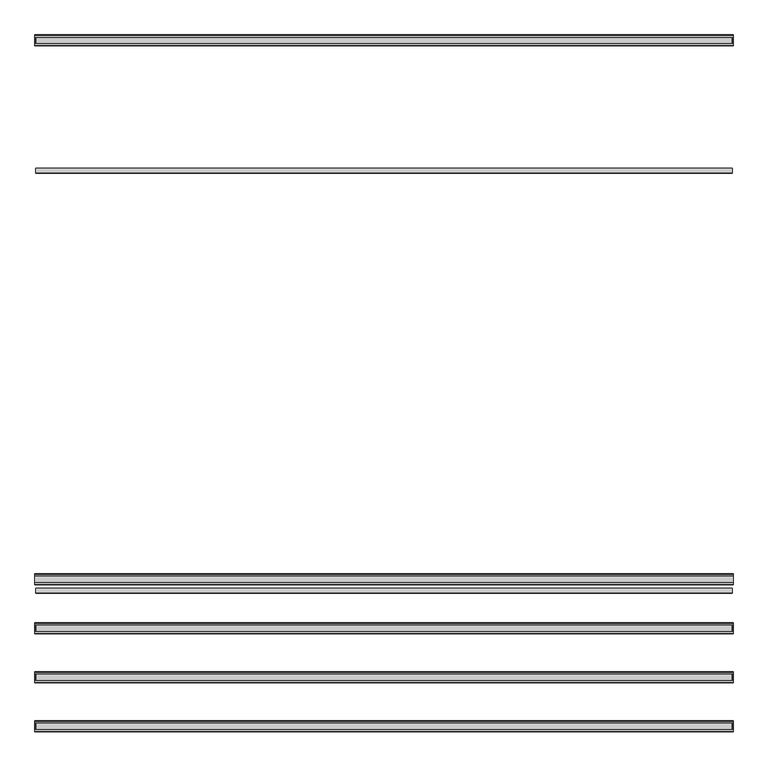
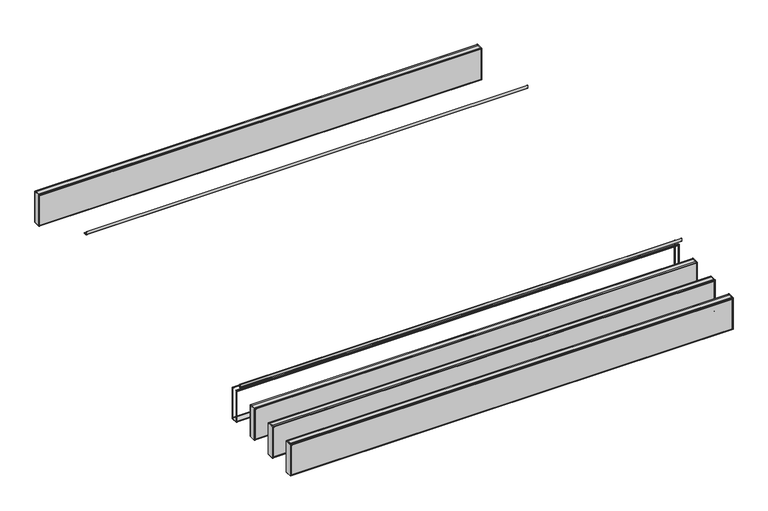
"""IFC4 building model written with IfcOpenShell, lengths in millimetres: proxy geometry, durlum_POLYLAM_KS : durlum_POLYLAM-KS/-S 63 RV-L6."""

from ifc_helpers import new_model, si_unit, point, frame, frame_2d, origin, place, context, project, spatial, polyline, circle_curve, trimmed, segment, composite_curve, outline, extrude, source, transform, mapped, element, save
from ifc_brep_helpers import plane_surface, cylinder_surface, advanced_brep


def generic_models_133a6ed9(model_context):
    return source(origin(), model_context, "Body", "SolidModel", [
        advanced_brep(
        [(1995.0, -1090.5, 1990.9), (1995.0, -1100.5, 1990.9), (1995.0, -1100.5, 1990.0604454), (1995.0, -1089.5, 1990.0604454), (1995.0, -1089.5, 1691.9), (1995.0, -1150.5, 1691.9), (1995.0, -1150.5, 1989.8155735), (1995.0, -1139.5, 1989.8155735), (1995.0, -1139.5, 1990.9), (1995.0, -1149.5, 1990.9), (1995.0, -1151.5, 1988.9), (1995.0, -1151.5, 1692.9), (1995.0, -1149.5, 1690.9), (1995.0, -1090.5, 1690.9), (1995.0, -1088.5, 1692.9), (1995.0, -1088.5, 1988.9), (-1995.0, -1090.5, 1990.9), (-1995.0, -1088.5, 1988.9), (-1995.0, -1088.5, 1692.9), (-1995.0, -1090.5, 1690.9), (-1995.0, -1149.5, 1690.9), (-1995.0, -1151.5, 1692.9), (-1995.0, -1151.5, 1988.9), (-1995.0, -1149.5, 1990.9), (-1995.0, -1139.5, 1990.9), (-1995.0, -1139.5, 1989.8155735), (-1995.0, -1150.5, 1989.8155735), (-1995.0, -1150.5, 1691.9), (-1995.0, -1089.5, 1691.9), (-1995.0, -1089.5, 1990.0604454), (-1995.0, -1100.5, 1990.0604454), (-1995.0, -1100.5, 1990.9), (-1986.5, -1089.5, 1982.4), (1986.5, -1089.5, 1982.4), (1986.5, -1089.5, 1699.4), (-1986.5, -1089.5, 1699.4), (1986.5, -1150.5, 1982.4), (-1986.5, -1150.5, 1982.4), (-1986.5, -1150.5, 1699.4), (1986.5, -1150.5, 1699.4), (-1986.5, -1151.5, 1982.4), (1986.5, -1151.5, 1982.4), (1986.5, -1151.5, 1699.4), (-1986.5, -1151.5, 1699.4), (1986.5, -1088.5, 1982.4), (-1986.5, -1088.5, 1982.4), (-1986.5, -1088.5, 1699.4), (1986.5, -1088.5, 1699.4)],
        [
            (0, 1),
            (1, 2),
            (2, 3),
            (3, 4),
            (4, 5),
            (5, 6),
            (6, 7),
            (7, 8),
            (8, 9),
            (9, 10, circle_curve(frame((1995.0, -1149.5, 1988.9), z_axis=(1.0, 0.0, 0.0), x_axis=(0.0, 1.0, 0.0)), 2.0)),
            (10, 11),
            (11, 12, circle_curve(frame((1995.0, -1149.5, 1692.9), z_axis=(1.0, 0.0, 0.0), x_axis=(0.0, 1.0, 0.0)), 2.0)),
            (12, 13),
            (13, 14, circle_curve(frame((1995.0, -1090.5, 1692.9), z_axis=(1.0, 0.0, 0.0), x_axis=(0.0, 1.0, 0.0)), 2.0)),
            (14, 15),
            (15, 0, circle_curve(frame((1995.0, -1090.5, 1988.9), z_axis=(1.0, 0.0, 0.0), x_axis=(0.0, 1.0, 0.0)), 2.0)),
            (16, 17, circle_curve(frame((-1995.0, -1090.5, 1988.9), z_axis=(-1.0, 0.0, 0.0), x_axis=(0.0, 1.0, 0.0)), 2.0)),
            (17, 18),
            (18, 19, circle_curve(frame((-1995.0, -1090.5, 1692.9), z_axis=(-1.0, 0.0, 0.0), x_axis=(0.0, 1.0, 0.0)), 2.0)),
            (19, 20),
            (20, 21, circle_curve(frame((-1995.0, -1149.5, 1692.9), z_axis=(-1.0, 0.0, 0.0), x_axis=(0.0, 1.0, 0.0)), 2.0)),
            (21, 22),
            (22, 23, circle_curve(frame((-1995.0, -1149.5, 1988.9), z_axis=(-1.0, 0.0, 0.0), x_axis=(0.0, 1.0, 0.0)), 2.0)),
            (23, 24),
            (24, 25),
            (25, 26),
            (26, 27),
            (27, 28),
            (28, 29),
            (29, 30),
            (30, 31),
            (31, 16),
            (0, 16),
            (31, 1),
            (30, 2),
            (29, 3),
            (28, 4),
            (32, 33),
            (33, 34),
            (34, 35),
            (35, 32),
            (27, 5),
            (26, 6),
            (36, 37),
            (37, 38),
            (38, 39),
            (39, 36),
            (25, 7),
            (24, 8),
            (23, 9),
            (10, 22),
            (21, 11),
            (40, 41),
            (41, 42),
            (42, 43),
            (43, 40),
            (12, 20),
            (19, 13),
            (14, 18),
            (17, 15),
            (44, 45),
            (45, 46),
            (46, 47),
            (47, 44),
            (44, 33),
            (32, 45),
            (36, 41),
            (40, 37),
            (35, 46),
            (43, 38),
            (34, 47),
            (42, 39),
        ],
        [
            plane_surface(frame((1995.0, -1100.5, 1990.9), z_axis=(1.0, 0.0, 0.0), x_axis=(0.0, -1.0, 0.0))),
            plane_surface(frame((-1995.0, -1100.5, 1990.9), z_axis=(-1.0, 0.0, 0.0), x_axis=(0.0, 1.0, 0.0))),
            plane_surface(frame((1995.0, -1090.5, 1990.9), z_axis=(0.0, 0.0, 1.0), x_axis=(-1.0, 0.0, 0.0))),
            plane_surface(frame((1995.0, -1100.5, 1990.9), z_axis=(0.0, -1.0, 0.0), x_axis=(-1.0, 0.0, 0.0))),
            plane_surface(frame((1995.0, -1100.5, 1990.0604454), z_axis=(0.0, 0.0, -1.0), x_axis=(-1.0, 0.0, 0.0))),
            plane_surface(frame((1995.0, -1089.5, 1990.0604454), z_axis=(0.0, -1.0, 0.0), x_axis=(-1.0, 0.0, 0.0))),
            plane_surface(frame((1995.0, -1089.5, 1691.9), z_axis=(0.0, 0.0, 1.0), x_axis=(-1.0, 0.0, 0.0))),
            plane_surface(frame((1995.0, -1150.5, 1691.9), z_axis=(0.0, 1.0, 0.0), x_axis=(-1.0, 0.0, 0.0))),
            plane_surface(frame((1995.0, -1150.5, 1989.8155735), z_axis=(0.0, 0.0, -1.0), x_axis=(-1.0, 0.0, 0.0))),
            plane_surface(frame((1995.0, -1139.5, 1989.8155735), z_axis=(0.0, 1.0, 0.0), x_axis=(-1.0, 0.0, 0.0))),
            plane_surface(frame((1995.0, -1139.5, 1990.9), z_axis=(0.0, 0.0, 1.0), x_axis=(-1.0, 0.0, 0.0))),
            plane_surface(frame((1995.0, -1151.5, 1988.9), z_axis=(0.0, -1.0, 0.0), x_axis=(-1.0, 0.0, 0.0))),
            plane_surface(frame((1995.0, -1149.5, 1690.9), z_axis=(0.0, 0.0, -1.0), x_axis=(-1.0, 0.0, 0.0))),
            plane_surface(frame((1995.0, -1088.5, 1692.9), z_axis=(0.0, 1.0, 0.0), x_axis=(-1.0, 0.0, 0.0))),
            cylinder_surface(frame((-1995.0, -1149.5, 1988.9), z_axis=(1.0, 0.0, 0.0), x_axis=(0.0, 1.0, 0.0)), 2.0),
            cylinder_surface(frame((-1995.0, -1149.5, 1692.9), z_axis=(1.0, 0.0, 0.0), x_axis=(0.0, 1.0, 0.0)), 2.0),
            cylinder_surface(frame((-1995.0, -1090.5, 1692.9), z_axis=(1.0, 0.0, 0.0), x_axis=(0.0, 1.0, 0.0)), 2.0),
            cylinder_surface(frame((-1995.0, -1090.5, 1988.9), z_axis=(1.0, 0.0, 0.0), x_axis=(0.0, 1.0, 0.0)), 2.0),
            plane_surface(frame((1986.5, -1151.5, 1982.4), z_axis=(0.0, 0.0, -1.0), x_axis=(0.0, 1.0, 0.0))),
            plane_surface(frame((-1986.5, -1151.5, 1982.4), z_axis=(1.0, 0.0, 0.0), x_axis=(0.0, 1.0, 0.0))),
            plane_surface(frame((-1986.5, -1151.5, 1699.4), z_axis=(0.0, 0.0, 1.0), x_axis=(0.0, 1.0, 0.0))),
            plane_surface(frame((1986.5, -1151.5, 1699.4), z_axis=(-1.0, 0.0, 0.0), x_axis=(0.0, 1.0, 0.0))),
        ],
        [
            (0, [[1, 2, 3, 4, 5, 6, 7, 8, 9, 10, 11, 12, 13, 14, 15, 16]]),
            (1, [[17, 18, 19, 20, 21, 22, 23, 24, 25, 26, 27, 28, 29, 30, 31, 32]]),
            (2, [[-1, 33, -32, 34]]),
            (3, [[-2, -34, -31, 35]]),
            (4, [[-3, -35, -30, 36]]),
            (5, [[-4, -36, -29, 37], [38, 39, 40, 41]]),
            (6, [[-5, -37, -28, 42]]),
            (7, [[-6, -42, -27, 43], [44, 45, 46, 47]]),
            (8, [[-7, -43, -26, 48]]),
            (9, [[-8, -48, -25, 49]]),
            (10, [[-9, -49, -24, 50]]),
            (11, [[-11, 51, -22, 52], [53, 54, 55, 56]]),
            (12, [[-13, 57, -20, 58]]),
            (13, [[-15, 59, -18, 60], [61, 62, 63, 64]]),
            (14, [[-10, -50, -23, -51]]),
            (15, [[-12, -52, -21, -57]]),
            (16, [[-14, -58, -19, -59]]),
            (17, [[-16, -60, -17, -33]]),
            (18, [[65, -38, 66, -61]]),
            (18, [[67, -53, 68, -44]]),
            (19, [[-66, -41, 69, -62]]),
            (19, [[-68, -56, 70, -45]]),
            (20, [[-69, -40, 71, -63]]),
            (20, [[-70, -55, 72, -46]]),
            (21, [[-65, -64, -71, -39]]),
            (21, [[-67, -47, -72, -54]]),
        ],
    ),
        extrude(outline(polyline([(1993.0, -1369.5), (1995.0, -1369.5), (1995.0, -1430.5), (1993.0, -1430.5), (1993.0, -1369.5)])), frame((0.0, 0.0, 1691.9), z_axis=(0.0, 0.0, 1.0), x_axis=(1.0, 0.0, 0.0)), (0.0, 0.0, 1.0), 298.1604454),
        extrude(outline(polyline([(-1995.0, -1369.5), (-1993.0, -1369.5), (-1993.0, -1430.5), (-1995.0, -1430.5), (-1995.0, -1369.5)])), frame((0.0, 0.0, 1691.9), z_axis=(0.0, 0.0, 1.0), x_axis=(1.0, 0.0, 0.0)), (0.0, 0.0, 1.0), 298.1604454),
        extrude(outline(polyline([(1986.5, -1369.5), (1986.5, -1430.5), (-1986.5, -1430.5), (-1986.5, -1369.5), (1986.5, -1369.5)])), frame((0.0, 0.0, 1691.9), z_axis=(0.0, 0.0, 1.0), x_axis=(1.0, 0.0, 0.0)), (0.0, 0.0, 1.0), 298.0),
        extrude(outline(polyline([(1986.5, -1369.5), (-1986.5, -1369.5), (-1986.5, -1368.5), (1986.5, -1368.5), (1986.5, -1369.5)])), frame((0.0, 0.0, 1699.4), z_axis=(0.0, 0.0, 1.0), x_axis=(1.0, 0.0, 0.0)), (0.0, 0.0, 1.0), 283.0),
        extrude(outline(polyline([(1986.5, -1431.5), (-1986.5, -1431.5), (-1986.5, -1430.5), (1986.5, -1430.5), (1986.5, -1431.5)])), frame((0.0, 0.0, 1699.4), z_axis=(0.0, 0.0, 1.0), x_axis=(1.0, 0.0, 0.0)), (0.0, 0.0, 1.0), 283.0),
        advanced_brep(
        [(1995.0, -1370.5, 1990.9), (1995.0, -1380.5, 1990.9), (1995.0, -1380.5, 1990.0604454), (1995.0, -1369.5, 1990.0604454), (1995.0, -1369.5, 1691.9), (1995.0, -1430.5, 1691.9), (1995.0, -1430.5, 1989.8155735), (1995.0, -1419.5, 1989.8155735), (1995.0, -1419.5, 1990.9), (1995.0, -1429.5, 1990.9), (1995.0, -1431.5, 1988.9), (1995.0, -1431.5, 1692.9), (1995.0, -1429.5, 1690.9), (1995.0, -1370.5, 1690.9), (1995.0, -1368.5, 1692.9), (1995.0, -1368.5, 1988.9), (-1995.0, -1370.5, 1990.9), (-1995.0, -1368.5, 1988.9), (-1995.0, -1368.5, 1692.9), (-1995.0, -1370.5, 1690.9), (-1995.0, -1429.5, 1690.9), (-1995.0, -1431.5, 1692.9), (-1995.0, -1431.5, 1988.9), (-1995.0, -1429.5, 1990.9), (-1995.0, -1419.5, 1990.9), (-1995.0, -1419.5, 1989.8155735), (-1995.0, -1430.5, 1989.8155735), (-1995.0, -1430.5, 1691.9), (-1995.0, -1369.5, 1691.9), (-1995.0, -1369.5, 1990.0604454), (-1995.0, -1380.5, 1990.0604454), (-1995.0, -1380.5, 1990.9), (-1986.5, -1369.5, 1982.4), (1986.5, -1369.5, 1982.4), (1986.5, -1369.5, 1699.4), (-1986.5, -1369.5, 1699.4), (1986.5, -1430.5, 1982.4), (-1986.5, -1430.5, 1982.4), (-1986.5, -1430.5, 1699.4), (1986.5, -1430.5, 1699.4), (-1986.5, -1431.5, 1982.4), (1986.5, -1431.5, 1982.4), (1986.5, -1431.5, 1699.4), (-1986.5, -1431.5, 1699.4), (1986.5, -1368.5, 1982.4), (-1986.5, -1368.5, 1982.4), (-1986.5, -1368.5, 1699.4), (1986.5, -1368.5, 1699.4)],
        [
            (0, 1),
            (1, 2),
            (2, 3),
            (3, 4),
            (4, 5),
            (5, 6),
            (6, 7),
            (7, 8),
            (8, 9),
            (9, 10, circle_curve(frame((1995.0, -1429.5, 1988.9), z_axis=(1.0, 0.0, 0.0), x_axis=(0.0, 1.0, 0.0)), 2.0)),
            (10, 11),
            (11, 12, circle_curve(frame((1995.0, -1429.5, 1692.9), z_axis=(1.0, 0.0, 0.0), x_axis=(0.0, 1.0, 0.0)), 2.0)),
            (12, 13),
            (13, 14, circle_curve(frame((1995.0, -1370.5, 1692.9), z_axis=(1.0, 0.0, 0.0), x_axis=(0.0, 1.0, 0.0)), 2.0)),
            (14, 15),
            (15, 0, circle_curve(frame((1995.0, -1370.5, 1988.9), z_axis=(1.0, 0.0, 0.0), x_axis=(0.0, 1.0, 0.0)), 2.0)),
            (16, 17, circle_curve(frame((-1995.0, -1370.5, 1988.9), z_axis=(-1.0, 0.0, 0.0), x_axis=(0.0, 1.0, 0.0)), 2.0)),
            (17, 18),
            (18, 19, circle_curve(frame((-1995.0, -1370.5, 1692.9), z_axis=(-1.0, 0.0, 0.0), x_axis=(0.0, 1.0, 0.0)), 2.0)),
            (19, 20),
            (20, 21, circle_curve(frame((-1995.0, -1429.5, 1692.9), z_axis=(-1.0, 0.0, 0.0), x_axis=(0.0, 1.0, 0.0)), 2.0)),
            (21, 22),
            (22, 23, circle_curve(frame((-1995.0, -1429.5, 1988.9), z_axis=(-1.0, 0.0, 0.0), x_axis=(0.0, 1.0, 0.0)), 2.0)),
            (23, 24),
            (24, 25),
            (25, 26),
            (26, 27),
            (27, 28),
            (28, 29),
            (29, 30),
            (30, 31),
            (31, 16),
            (0, 16),
            (31, 1),
            (30, 2),
            (29, 3),
            (28, 4),
            (32, 33),
            (33, 34),
            (34, 35),
            (35, 32),
            (27, 5),
            (26, 6),
            (36, 37),
            (37, 38),
            (38, 39),
            (39, 36),
            (25, 7),
            (24, 8),
            (23, 9),
            (10, 22),
            (21, 11),
            (40, 41),
            (41, 42),
            (42, 43),
            (43, 40),
            (12, 20),
            (19, 13),
            (14, 18),
            (17, 15),
            (44, 45),
            (45, 46),
            (46, 47),
            (47, 44),
            (44, 33),
            (32, 45),
            (36, 41),
            (40, 37),
            (35, 46),
            (43, 38),
            (34, 47),
            (42, 39),
        ],
        [
            plane_surface(frame((1995.0, -1380.5, 1990.9), z_axis=(1.0, 0.0, 0.0), x_axis=(0.0, -1.0, 0.0))),
            plane_surface(frame((-1995.0, -1380.5, 1990.9), z_axis=(-1.0, 0.0, 0.0), x_axis=(0.0, 1.0, 0.0))),
            plane_surface(frame((1995.0, -1370.5, 1990.9), z_axis=(0.0, 0.0, 1.0), x_axis=(-1.0, 0.0, 0.0))),
            plane_surface(frame((1995.0, -1380.5, 1990.9), z_axis=(0.0, -1.0, 0.0), x_axis=(-1.0, 0.0, 0.0))),
            plane_surface(frame((1995.0, -1380.5, 1990.0604454), z_axis=(0.0, 0.0, -1.0), x_axis=(-1.0, 0.0, 0.0))),
            plane_surface(frame((1995.0, -1369.5, 1990.0604454), z_axis=(0.0, -1.0, 0.0), x_axis=(-1.0, 0.0, 0.0))),
            plane_surface(frame((1995.0, -1369.5, 1691.9), z_axis=(0.0, 0.0, 1.0), x_axis=(-1.0, 0.0, 0.0))),
            plane_surface(frame((1995.0, -1430.5, 1691.9), z_axis=(0.0, 1.0, 0.0), x_axis=(-1.0, 0.0, 0.0))),
            plane_surface(frame((1995.0, -1430.5, 1989.8155735), z_axis=(0.0, 0.0, -1.0), x_axis=(-1.0, 0.0, 0.0))),
            plane_surface(frame((1995.0, -1419.5, 1989.8155735), z_axis=(0.0, 1.0, 0.0), x_axis=(-1.0, 0.0, 0.0))),
            plane_surface(frame((1995.0, -1419.5, 1990.9), z_axis=(0.0, 0.0, 1.0), x_axis=(-1.0, 0.0, 0.0))),
            plane_surface(frame((1995.0, -1431.5, 1988.9), z_axis=(0.0, -1.0, 0.0), x_axis=(-1.0, 0.0, 0.0))),
            plane_surface(frame((1995.0, -1429.5, 1690.9), z_axis=(0.0, 0.0, -1.0), x_axis=(-1.0, 0.0, 0.0))),
            plane_surface(frame((1995.0, -1368.5, 1692.9), z_axis=(0.0, 1.0, 0.0), x_axis=(-1.0, 0.0, 0.0))),
            cylinder_surface(frame((-1995.0, -1429.5, 1988.9), z_axis=(1.0, 0.0, 0.0), x_axis=(0.0, 1.0, 0.0)), 2.0),
            cylinder_surface(frame((-1995.0, -1429.5, 1692.9), z_axis=(1.0, 0.0, 0.0), x_axis=(0.0, 1.0, 0.0)), 2.0),
            cylinder_surface(frame((-1995.0, -1370.5, 1692.9), z_axis=(1.0, 0.0, 0.0), x_axis=(0.0, 1.0, 0.0)), 2.0),
            cylinder_surface(frame((-1995.0, -1370.5, 1988.9), z_axis=(1.0, 0.0, 0.0), x_axis=(0.0, 1.0, 0.0)), 2.0),
            plane_surface(frame((1986.5, -1431.5, 1982.4), z_axis=(0.0, 0.0, -1.0), x_axis=(0.0, 1.0, 0.0))),
            plane_surface(frame((-1986.5, -1431.5, 1982.4), z_axis=(1.0, 0.0, 0.0), x_axis=(0.0, 1.0, 0.0))),
            plane_surface(frame((-1986.5, -1431.5, 1699.4), z_axis=(0.0, 0.0, 1.0), x_axis=(0.0, 1.0, 0.0))),
            plane_surface(frame((1986.5, -1431.5, 1699.4), z_axis=(-1.0, 0.0, 0.0), x_axis=(0.0, 1.0, 0.0))),
        ],
        [
            (0, [[1, 2, 3, 4, 5, 6, 7, 8, 9, 10, 11, 12, 13, 14, 15, 16]]),
            (1, [[17, 18, 19, 20, 21, 22, 23, 24, 25, 26, 27, 28, 29, 30, 31, 32]]),
            (2, [[-1, 33, -32, 34]]),
            (3, [[-2, -34, -31, 35]]),
            (4, [[-3, -35, -30, 36]]),
            (5, [[-4, -36, -29, 37], [38, 39, 40, 41]]),
            (6, [[-5, -37, -28, 42]]),
            (7, [[-6, -42, -27, 43], [44, 45, 46, 47]]),
            (8, [[-7, -43, -26, 48]]),
            (9, [[-8, -48, -25, 49]]),
            (10, [[-9, -49, -24, 50]]),
            (11, [[-11, 51, -22, 52], [53, 54, 55, 56]]),
            (12, [[-13, 57, -20, 58]]),
            (13, [[-15, 59, -18, 60], [61, 62, 63, 64]]),
            (14, [[-10, -50, -23, -51]]),
            (15, [[-12, -52, -21, -57]]),
            (16, [[-14, -58, -19, -59]]),
            (17, [[-16, -60, -17, -33]]),
            (18, [[65, -38, 66, -61]]),
            (18, [[67, -53, 68, -44]]),
            (19, [[-66, -41, 69, -62]]),
            (19, [[-68, -56, 70, -45]]),
            (20, [[-69, -40, 71, -63]]),
            (20, [[-70, -55, 72, -46]]),
            (21, [[-65, -64, -71, -39]]),
            (21, [[-67, -47, -72, -54]]),
        ],
    ),
        extrude(outline(polyline([(1993.0, -1649.5), (1995.0, -1649.5), (1995.0, -1710.5), (1993.0, -1710.5), (1993.0, -1649.5)])), frame((0.0, 0.0, 1691.9), z_axis=(0.0, 0.0, 1.0), x_axis=(1.0, 0.0, 0.0)), (0.0, 0.0, 1.0), 298.1604454),
        extrude(outline(polyline([(-1995.0, -1649.5), (-1993.0, -1649.5), (-1993.0, -1710.5), (-1995.0, -1710.5), (-1995.0, -1649.5)])), frame((0.0, 0.0, 1691.9), z_axis=(0.0, 0.0, 1.0), x_axis=(1.0, 0.0, 0.0)), (0.0, 0.0, 1.0), 298.1604454),
        extrude(outline(polyline([(1986.5, -1649.5), (1986.5, -1710.5), (-1986.5, -1710.5), (-1986.5, -1649.5), (1986.5, -1649.5)])), frame((0.0, 0.0, 1691.9), z_axis=(0.0, 0.0, 1.0), x_axis=(1.0, 0.0, 0.0)), (0.0, 0.0, 1.0), 298.0),
        extrude(outline(polyline([(1986.5, -1649.5), (-1986.5, -1649.5), (-1986.5, -1648.5), (1986.5, -1648.5), (1986.5, -1649.5)])), frame((0.0, 0.0, 1699.4), z_axis=(0.0, 0.0, 1.0), x_axis=(1.0, 0.0, 0.0)), (0.0, 0.0, 1.0), 283.0),
        extrude(outline(polyline([(1986.5, -1711.5), (-1986.5, -1711.5), (-1986.5, -1710.5), (1986.5, -1710.5), (1986.5, -1711.5)])), frame((0.0, 0.0, 1699.4), z_axis=(0.0, 0.0, 1.0), x_axis=(1.0, 0.0, 0.0)), (0.0, 0.0, 1.0), 283.0),
        advanced_brep(
        [(1995.0, -1650.5, 1990.9), (1995.0, -1660.5, 1990.9), (1995.0, -1660.5, 1990.0604454), (1995.0, -1649.5, 1990.0604454), (1995.0, -1649.5, 1691.9), (1995.0, -1710.5, 1691.9), (1995.0, -1710.5, 1989.8155735), (1995.0, -1699.5, 1989.8155735), (1995.0, -1699.5, 1990.9), (1995.0, -1709.5, 1990.9), (1995.0, -1711.5, 1988.9), (1995.0, -1711.5, 1692.9), (1995.0, -1709.5, 1690.9), (1995.0, -1650.5, 1690.9), (1995.0, -1648.5, 1692.9), (1995.0, -1648.5, 1988.9), (-1995.0, -1650.5, 1990.9), (-1995.0, -1648.5, 1988.9), (-1995.0, -1648.5, 1692.9), (-1995.0, -1650.5, 1690.9), (-1995.0, -1709.5, 1690.9), (-1995.0, -1711.5, 1692.9), (-1995.0, -1711.5, 1988.9), (-1995.0, -1709.5, 1990.9), (-1995.0, -1699.5, 1990.9), (-1995.0, -1699.5, 1989.8155735), (-1995.0, -1710.5, 1989.8155735), (-1995.0, -1710.5, 1691.9), (-1995.0, -1649.5, 1691.9), (-1995.0, -1649.5, 1990.0604454), (-1995.0, -1660.5, 1990.0604454), (-1995.0, -1660.5, 1990.9), (-1986.5, -1649.5, 1982.4), (1986.5, -1649.5, 1982.4), (1986.5, -1649.5, 1699.4), (-1986.5, -1649.5, 1699.4), (1986.5, -1710.5, 1982.4), (-1986.5, -1710.5, 1982.4), (-1986.5, -1710.5, 1699.4), (1986.5, -1710.5, 1699.4), (-1986.5, -1711.5, 1982.4), (1986.5, -1711.5, 1982.4), (1986.5, -1711.5, 1699.4), (-1986.5, -1711.5, 1699.4), (1986.5, -1648.5, 1982.4), (-1986.5, -1648.5, 1982.4), (-1986.5, -1648.5, 1699.4), (1986.5, -1648.5, 1699.4)],
        [
            (0, 1),
            (1, 2),
            (2, 3),
            (3, 4),
            (4, 5),
            (5, 6),
            (6, 7),
            (7, 8),
            (8, 9),
            (9, 10, circle_curve(frame((1995.0, -1709.5, 1988.9), z_axis=(1.0, 0.0, 0.0), x_axis=(0.0, 1.0, 0.0)), 2.0)),
            (10, 11),
            (11, 12, circle_curve(frame((1995.0, -1709.5, 1692.9), z_axis=(1.0, 0.0, 0.0), x_axis=(0.0, 1.0, 0.0)), 2.0)),
            (12, 13),
            (13, 14, circle_curve(frame((1995.0, -1650.5, 1692.9), z_axis=(1.0, 0.0, 0.0), x_axis=(0.0, 1.0, 0.0)), 2.0)),
            (14, 15),
            (15, 0, circle_curve(frame((1995.0, -1650.5, 1988.9), z_axis=(1.0, 0.0, 0.0), x_axis=(0.0, 1.0, 0.0)), 2.0)),
            (16, 17, circle_curve(frame((-1995.0, -1650.5, 1988.9), z_axis=(-1.0, 0.0, 0.0), x_axis=(0.0, 1.0, 0.0)), 2.0)),
            (17, 18),
            (18, 19, circle_curve(frame((-1995.0, -1650.5, 1692.9), z_axis=(-1.0, 0.0, 0.0), x_axis=(0.0, 1.0, 0.0)), 2.0)),
            (19, 20),
            (20, 21, circle_curve(frame((-1995.0, -1709.5, 1692.9), z_axis=(-1.0, 0.0, 0.0), x_axis=(0.0, 1.0, 0.0)), 2.0)),
            (21, 22),
            (22, 23, circle_curve(frame((-1995.0, -1709.5, 1988.9), z_axis=(-1.0, 0.0, 0.0), x_axis=(0.0, 1.0, 0.0)), 2.0)),
            (23, 24),
            (24, 25),
            (25, 26),
            (26, 27),
            (27, 28),
            (28, 29),
            (29, 30),
            (30, 31),
            (31, 16),
            (0, 16),
            (31, 1),
            (30, 2),
            (29, 3),
            (28, 4),
            (32, 33),
            (33, 34),
            (34, 35),
            (35, 32),
            (27, 5),
            (26, 6),
            (36, 37),
            (37, 38),
            (38, 39),
            (39, 36),
            (25, 7),
            (24, 8),
            (23, 9),
            (10, 22),
            (21, 11),
            (40, 41),
            (41, 42),
            (42, 43),
            (43, 40),
            (12, 20),
            (19, 13),
            (14, 18),
            (17, 15),
            (44, 45),
            (45, 46),
            (46, 47),
            (47, 44),
            (44, 33),
            (32, 45),
            (36, 41),
            (40, 37),
            (35, 46),
            (43, 38),
            (34, 47),
            (42, 39),
        ],
        [
            plane_surface(frame((1995.0, -1660.5, 1990.9), z_axis=(1.0, 0.0, 0.0), x_axis=(0.0, -1.0, 0.0))),
            plane_surface(frame((-1995.0, -1660.5, 1990.9), z_axis=(-1.0, 0.0, 0.0), x_axis=(0.0, 1.0, 0.0))),
            plane_surface(frame((1995.0, -1650.5, 1990.9), z_axis=(0.0, 0.0, 1.0), x_axis=(-1.0, 0.0, 0.0))),
            plane_surface(frame((1995.0, -1660.5, 1990.9), z_axis=(0.0, -1.0, 0.0), x_axis=(-1.0, 0.0, 0.0))),
            plane_surface(frame((1995.0, -1660.5, 1990.0604454), z_axis=(0.0, 0.0, -1.0), x_axis=(-1.0, 0.0, 0.0))),
            plane_surface(frame((1995.0, -1649.5, 1990.0604454), z_axis=(0.0, -1.0, 0.0), x_axis=(-1.0, 0.0, 0.0))),
            plane_surface(frame((1995.0, -1649.5, 1691.9), z_axis=(0.0, 0.0, 1.0), x_axis=(-1.0, 0.0, 0.0))),
            plane_surface(frame((1995.0, -1710.5, 1691.9), z_axis=(0.0, 1.0, 0.0), x_axis=(-1.0, 0.0, 0.0))),
            plane_surface(frame((1995.0, -1710.5, 1989.8155735), z_axis=(0.0, 0.0, -1.0), x_axis=(-1.0, 0.0, 0.0))),
            plane_surface(frame((1995.0, -1699.5, 1989.8155735), z_axis=(0.0, 1.0, 0.0), x_axis=(-1.0, 0.0, 0.0))),
            plane_surface(frame((1995.0, -1699.5, 1990.9), z_axis=(0.0, 0.0, 1.0), x_axis=(-1.0, 0.0, 0.0))),
            plane_surface(frame((1995.0, -1711.5, 1988.9), z_axis=(0.0, -1.0, 0.0), x_axis=(-1.0, 0.0, 0.0))),
            plane_surface(frame((1995.0, -1709.5, 1690.9), z_axis=(0.0, 0.0, -1.0), x_axis=(-1.0, 0.0, 0.0))),
            plane_surface(frame((1995.0, -1648.5, 1692.9), z_axis=(0.0, 1.0, 0.0), x_axis=(-1.0, 0.0, 0.0))),
            cylinder_surface(frame((-1995.0, -1709.5, 1988.9), z_axis=(1.0, 0.0, 0.0), x_axis=(0.0, 1.0, 0.0)), 2.0),
            cylinder_surface(frame((-1995.0, -1709.5, 1692.9), z_axis=(1.0, 0.0, 0.0), x_axis=(0.0, 1.0, 0.0)), 2.0),
            cylinder_surface(frame((-1995.0, -1650.5, 1692.9), z_axis=(1.0, 0.0, 0.0), x_axis=(0.0, 1.0, 0.0)), 2.0),
            cylinder_surface(frame((-1995.0, -1650.5, 1988.9), z_axis=(1.0, 0.0, 0.0), x_axis=(0.0, 1.0, 0.0)), 2.0),
            plane_surface(frame((1986.5, -1711.5, 1982.4), z_axis=(0.0, 0.0, -1.0), x_axis=(0.0, 1.0, 0.0))),
            plane_surface(frame((-1986.5, -1711.5, 1982.4), z_axis=(1.0, 0.0, 0.0), x_axis=(0.0, 1.0, 0.0))),
            plane_surface(frame((-1986.5, -1711.5, 1699.4), z_axis=(0.0, 0.0, 1.0), x_axis=(0.0, 1.0, 0.0))),
            plane_surface(frame((1986.5, -1711.5, 1699.4), z_axis=(-1.0, 0.0, 0.0), x_axis=(0.0, 1.0, 0.0))),
        ],
        [
            (0, [[1, 2, 3, 4, 5, 6, 7, 8, 9, 10, 11, 12, 13, 14, 15, 16]]),
            (1, [[17, 18, 19, 20, 21, 22, 23, 24, 25, 26, 27, 28, 29, 30, 31, 32]]),
            (2, [[-1, 33, -32, 34]]),
            (3, [[-2, -34, -31, 35]]),
            (4, [[-3, -35, -30, 36]]),
            (5, [[-4, -36, -29, 37], [38, 39, 40, 41]]),
            (6, [[-5, -37, -28, 42]]),
            (7, [[-6, -42, -27, 43], [44, 45, 46, 47]]),
            (8, [[-7, -43, -26, 48]]),
            (9, [[-8, -48, -25, 49]]),
            (10, [[-9, -49, -24, 50]]),
            (11, [[-11, 51, -22, 52], [53, 54, 55, 56]]),
            (12, [[-13, 57, -20, 58]]),
            (13, [[-15, 59, -18, 60], [61, 62, 63, 64]]),
            (14, [[-10, -50, -23, -51]]),
            (15, [[-12, -52, -21, -57]]),
            (16, [[-14, -58, -19, -59]]),
            (17, [[-16, -60, -17, -33]]),
            (18, [[65, -38, 66, -61]]),
            (18, [[67, -53, 68, -44]]),
            (19, [[-66, -41, 69, -62]]),
            (19, [[-68, -56, 70, -45]]),
            (20, [[-69, -40, 71, -63]]),
            (20, [[-70, -55, 72, -46]]),
            (21, [[-65, -64, -71, -39]]),
            (21, [[-67, -47, -72, -54]]),
        ],
    ),
        extrude(outline(polyline([(1993.0, 1990.5), (1995.0, 1990.5), (1995.0, 1929.5), (1993.0, 1929.5), (1993.0, 1990.5)])), frame((0.0, 0.0, 1691.9), z_axis=(0.0, 0.0, 1.0), x_axis=(1.0, 0.0, 0.0)), (0.0, 0.0, 1.0), 298.1604454),
        extrude(outline(polyline([(-1995.0, 1990.5), (-1993.0, 1990.5), (-1993.0, 1929.5), (-1995.0, 1929.5), (-1995.0, 1990.5)])), frame((0.0, 0.0, 1691.9), z_axis=(0.0, 0.0, 1.0), x_axis=(1.0, 0.0, 0.0)), (0.0, 0.0, 1.0), 298.1604454),
        extrude(outline(polyline([(1986.5, 1990.5), (1986.5, 1929.5), (-1986.5, 1929.5), (-1986.5, 1990.5), (1986.5, 1990.5)])), frame((0.0, 0.0, 1691.9), z_axis=(0.0, 0.0, 1.0), x_axis=(1.0, 0.0, 0.0)), (0.0, 0.0, 1.0), 298.0),
        extrude(outline(polyline([(1986.5, 1990.5), (-1986.5, 1990.5), (-1986.5, 1991.5), (1986.5, 1991.5), (1986.5, 1990.5)])), frame((0.0, 0.0, 1699.4), z_axis=(0.0, 0.0, 1.0), x_axis=(1.0, 0.0, 0.0)), (0.0, 0.0, 1.0), 283.0),
        extrude(outline(polyline([(1986.5, 1928.5), (-1986.5, 1928.5), (-1986.5, 1929.5), (1986.5, 1929.5), (1986.5, 1928.5)])), frame((0.0, 0.0, 1699.4), z_axis=(0.0, 0.0, 1.0), x_axis=(1.0, 0.0, 0.0)), (0.0, 0.0, 1.0), 283.0),
        advanced_brep(
        [(1995.0, 1989.5, 1990.9), (1995.0, 1979.5, 1990.9), (1995.0, 1979.5, 1990.0604454), (1995.0, 1990.5, 1990.0604454), (1995.0, 1990.5, 1691.9), (1995.0, 1929.5, 1691.9), (1995.0, 1929.5, 1989.8155735), (1995.0, 1940.5, 1989.8155735), (1995.0, 1940.5, 1990.9), (1995.0, 1930.5, 1990.9), (1995.0, 1928.5, 1988.9), (1995.0, 1928.5, 1692.9), (1995.0, 1930.5, 1690.9), (1995.0, 1989.5, 1690.9), (1995.0, 1991.5, 1692.9), (1995.0, 1991.5, 1988.9), (-1995.0, 1989.5, 1990.9), (-1995.0, 1991.5, 1988.9), (-1995.0, 1991.5, 1692.9), (-1995.0, 1989.5, 1690.9), (-1995.0, 1930.5, 1690.9), (-1995.0, 1928.5, 1692.9), (-1995.0, 1928.5, 1988.9), (-1995.0, 1930.5, 1990.9), (-1995.0, 1940.5, 1990.9), (-1995.0, 1940.5, 1989.8155735), (-1995.0, 1929.5, 1989.8155735), (-1995.0, 1929.5, 1691.9), (-1995.0, 1990.5, 1691.9), (-1995.0, 1990.5, 1990.0604454), (-1995.0, 1979.5, 1990.0604454), (-1995.0, 1979.5, 1990.9), (-1986.5, 1990.5, 1982.4), (1986.5, 1990.5, 1982.4), (1986.5, 1990.5, 1699.4), (-1986.5, 1990.5, 1699.4), (1986.5, 1929.5, 1982.4), (-1986.5, 1929.5, 1982.4), (-1986.5, 1929.5, 1699.4), (1986.5, 1929.5, 1699.4), (-1986.5, 1928.5, 1982.4), (1986.5, 1928.5, 1982.4), (1986.5, 1928.5, 1699.4), (-1986.5, 1928.5, 1699.4), (1986.5, 1991.5, 1982.4), (-1986.5, 1991.5, 1982.4), (-1986.5, 1991.5, 1699.4), (1986.5, 1991.5, 1699.4)],
        [
            (0, 1),
            (1, 2),
            (2, 3),
            (3, 4),
            (4, 5),
            (5, 6),
            (6, 7),
            (7, 8),
            (8, 9),
            (9, 10, circle_curve(frame((1995.0, 1930.5, 1988.9), z_axis=(1.0, 0.0, 0.0), x_axis=(0.0, 1.0, 0.0)), 2.0)),
            (10, 11),
            (11, 12, circle_curve(frame((1995.0, 1930.5, 1692.9), z_axis=(1.0, 0.0, 0.0), x_axis=(0.0, 1.0, 0.0)), 2.0)),
            (12, 13),
            (13, 14, circle_curve(frame((1995.0, 1989.5, 1692.9), z_axis=(1.0, 0.0, 0.0), x_axis=(0.0, 1.0, 0.0)), 2.0)),
            (14, 15),
            (15, 0, circle_curve(frame((1995.0, 1989.5, 1988.9), z_axis=(1.0, 0.0, 0.0), x_axis=(0.0, 1.0, 0.0)), 2.0)),
            (16, 17, circle_curve(frame((-1995.0, 1989.5, 1988.9), z_axis=(-1.0, 0.0, 0.0), x_axis=(0.0, 1.0, 0.0)), 2.0)),
            (17, 18),
            (18, 19, circle_curve(frame((-1995.0, 1989.5, 1692.9), z_axis=(-1.0, 0.0, 0.0), x_axis=(0.0, 1.0, 0.0)), 2.0)),
            (19, 20),
            (20, 21, circle_curve(frame((-1995.0, 1930.5, 1692.9), z_axis=(-1.0, 0.0, 0.0), x_axis=(0.0, 1.0, 0.0)), 2.0)),
            (21, 22),
            (22, 23, circle_curve(frame((-1995.0, 1930.5, 1988.9), z_axis=(-1.0, 0.0, 0.0), x_axis=(0.0, 1.0, 0.0)), 2.0)),
            (23, 24),
            (24, 25),
            (25, 26),
            (26, 27),
            (27, 28),
            (28, 29),
            (29, 30),
            (30, 31),
            (31, 16),
            (0, 16),
            (31, 1),
            (30, 2),
            (29, 3),
            (28, 4),
            (32, 33),
            (33, 34),
            (34, 35),
            (35, 32),
            (27, 5),
            (26, 6),
            (36, 37),
            (37, 38),
            (38, 39),
            (39, 36),
            (25, 7),
            (24, 8),
            (23, 9),
            (10, 22),
            (21, 11),
            (40, 41),
            (41, 42),
            (42, 43),
            (43, 40),
            (12, 20),
            (19, 13),
            (14, 18),
            (17, 15),
            (44, 45),
            (45, 46),
            (46, 47),
            (47, 44),
            (44, 33),
            (32, 45),
            (36, 41),
            (40, 37),
            (35, 46),
            (43, 38),
            (34, 47),
            (42, 39),
        ],
        [
            plane_surface(frame((1995.0, 1979.5, 1990.9), z_axis=(1.0, 0.0, 0.0), x_axis=(0.0, -1.0, 0.0))),
            plane_surface(frame((-1995.0, 1979.5, 1990.9), z_axis=(-1.0, 0.0, 0.0), x_axis=(0.0, 1.0, 0.0))),
            plane_surface(frame((1995.0, 1989.5, 1990.9), z_axis=(0.0, 0.0, 1.0), x_axis=(-1.0, 0.0, 0.0))),
            plane_surface(frame((1995.0, 1979.5, 1990.9), z_axis=(0.0, -1.0, 0.0), x_axis=(-1.0, 0.0, 0.0))),
            plane_surface(frame((1995.0, 1979.5, 1990.0604454), z_axis=(0.0, 0.0, -1.0), x_axis=(-1.0, 0.0, 0.0))),
            plane_surface(frame((1995.0, 1990.5, 1990.0604454), z_axis=(0.0, -1.0, 0.0), x_axis=(-1.0, 0.0, 0.0))),
            plane_surface(frame((1995.0, 1990.5, 1691.9), z_axis=(0.0, 0.0, 1.0), x_axis=(-1.0, 0.0, 0.0))),
            plane_surface(frame((1995.0, 1929.5, 1691.9), z_axis=(0.0, 1.0, 0.0), x_axis=(-1.0, 0.0, 0.0))),
            plane_surface(frame((1995.0, 1929.5, 1989.8155735), z_axis=(0.0, 0.0, -1.0), x_axis=(-1.0, 0.0, 0.0))),
            plane_surface(frame((1995.0, 1940.5, 1989.8155735), z_axis=(0.0, 1.0, 0.0), x_axis=(-1.0, 0.0, 0.0))),
            plane_surface(frame((1995.0, 1940.5, 1990.9), z_axis=(0.0, 0.0, 1.0), x_axis=(-1.0, 0.0, 0.0))),
            plane_surface(frame((1995.0, 1928.5, 1988.9), z_axis=(0.0, -1.0, 0.0), x_axis=(-1.0, 0.0, 0.0))),
            plane_surface(frame((1995.0, 1930.5, 1690.9), z_axis=(0.0, 0.0, -1.0), x_axis=(-1.0, 0.0, 0.0))),
            plane_surface(frame((1995.0, 1991.5, 1692.9), z_axis=(0.0, 1.0, 0.0), x_axis=(-1.0, 0.0, 0.0))),
            cylinder_surface(frame((-1995.0, 1930.5, 1988.9), z_axis=(1.0, 0.0, 0.0), x_axis=(0.0, 1.0, 0.0)), 2.0),
            cylinder_surface(frame((-1995.0, 1930.5, 1692.9), z_axis=(1.0, 0.0, 0.0), x_axis=(0.0, 1.0, 0.0)), 2.0),
            cylinder_surface(frame((-1995.0, 1989.5, 1692.9), z_axis=(1.0, 0.0, 0.0), x_axis=(0.0, 1.0, 0.0)), 2.0),
            cylinder_surface(frame((-1995.0, 1989.5, 1988.9), z_axis=(1.0, 0.0, 0.0), x_axis=(0.0, 1.0, 0.0)), 2.0),
            plane_surface(frame((1986.5, 1928.5, 1982.4), z_axis=(0.0, 0.0, -1.0), x_axis=(0.0, 1.0, 0.0))),
            plane_surface(frame((-1986.5, 1928.5, 1982.4), z_axis=(1.0, 0.0, 0.0), x_axis=(0.0, 1.0, 0.0))),
            plane_surface(frame((-1986.5, 1928.5, 1699.4), z_axis=(0.0, 0.0, 1.0), x_axis=(0.0, 1.0, 0.0))),
            plane_surface(frame((1986.5, 1928.5, 1699.4), z_axis=(-1.0, 0.0, 0.0), x_axis=(0.0, 1.0, 0.0))),
        ],
        [
            (0, [[1, 2, 3, 4, 5, 6, 7, 8, 9, 10, 11, 12, 13, 14, 15, 16]]),
            (1, [[17, 18, 19, 20, 21, 22, 23, 24, 25, 26, 27, 28, 29, 30, 31, 32]]),
            (2, [[-1, 33, -32, 34]]),
            (3, [[-2, -34, -31, 35]]),
            (4, [[-3, -35, -30, 36]]),
            (5, [[-4, -36, -29, 37], [38, 39, 40, 41]]),
            (6, [[-5, -37, -28, 42]]),
            (7, [[-6, -42, -27, 43], [44, 45, 46, 47]]),
            (8, [[-7, -43, -26, 48]]),
            (9, [[-8, -48, -25, 49]]),
            (10, [[-9, -49, -24, 50]]),
            (11, [[-11, 51, -22, 52], [53, 54, 55, 56]]),
            (12, [[-13, 57, -20, 58]]),
            (13, [[-15, 59, -18, 60], [61, 62, 63, 64]]),
            (14, [[-10, -50, -23, -51]]),
            (15, [[-12, -52, -21, -57]]),
            (16, [[-14, -58, -19, -59]]),
            (17, [[-16, -60, -17, -33]]),
            (18, [[65, -38, 66, -61]]),
            (18, [[67, -53, 68, -44]]),
            (19, [[-66, -41, 69, -62]]),
            (19, [[-68, -56, 70, -45]]),
            (20, [[-69, -40, 71, -63]]),
            (20, [[-70, -55, 72, -46]]),
            (21, [[-65, -64, -71, -39]]),
            (21, [[-67, -47, -72, -54]]),
        ],
    ),
        extrude(outline(polyline([(1993.0, -1929.5), (1995.0, -1929.5), (1995.0, -1990.5), (1993.0, -1990.5), (1993.0, -1929.5)])), frame((0.0, 0.0, 1691.9), z_axis=(0.0, 0.0, 1.0), x_axis=(1.0, 0.0, 0.0)), (0.0, 0.0, 1.0), 298.1604454),
        extrude(outline(polyline([(-1995.0, -1929.5), (-1993.0, -1929.5), (-1993.0, -1990.5), (-1995.0, -1990.5), (-1995.0, -1929.5)])), frame((0.0, 0.0, 1691.9), z_axis=(0.0, 0.0, 1.0), x_axis=(1.0, 0.0, 0.0)), (0.0, 0.0, 1.0), 298.1604454),
        extrude(outline(polyline([(1986.5, -1929.5), (1986.5, -1990.5), (-1986.5, -1990.5), (-1986.5, -1929.5), (1986.5, -1929.5)])), frame((0.0, 0.0, 1691.9), z_axis=(0.0, 0.0, 1.0), x_axis=(1.0, 0.0, 0.0)), (0.0, 0.0, 1.0), 298.0),
        extrude(outline(polyline([(1986.5, -1929.5), (-1986.5, -1929.5), (-1986.5, -1928.5), (1986.5, -1928.5), (1986.5, -1929.5)])), frame((0.0, 0.0, 1699.4), z_axis=(0.0, 0.0, 1.0), x_axis=(1.0, 0.0, 0.0)), (0.0, 0.0, 1.0), 283.0),
        extrude(outline(polyline([(1986.5, -1991.5), (-1986.5, -1991.5), (-1986.5, -1990.5), (1986.5, -1990.5), (1986.5, -1991.5)])), frame((0.0, 0.0, 1699.4), z_axis=(0.0, 0.0, 1.0), x_axis=(1.0, 0.0, 0.0)), (0.0, 0.0, 1.0), 283.0),
        advanced_brep(
        [(1995.0, -1930.5, 1990.9), (1995.0, -1940.5, 1990.9), (1995.0, -1940.5, 1990.0604454), (1995.0, -1929.5, 1990.0604454), (1995.0, -1929.5, 1691.9), (1995.0, -1990.5, 1691.9), (1995.0, -1990.5, 1989.8155735), (1995.0, -1979.5, 1989.8155735), (1995.0, -1979.5, 1990.9), (1995.0, -1989.5, 1990.9), (1995.0, -1991.5, 1988.9), (1995.0, -1991.5, 1692.9), (1995.0, -1989.5, 1690.9), (1995.0, -1930.5, 1690.9), (1995.0, -1928.5, 1692.9), (1995.0, -1928.5, 1988.9), (-1995.0, -1930.5, 1990.9), (-1995.0, -1928.5, 1988.9), (-1995.0, -1928.5, 1692.9), (-1995.0, -1930.5, 1690.9), (-1995.0, -1989.5, 1690.9), (-1995.0, -1991.5, 1692.9), (-1995.0, -1991.5, 1988.9), (-1995.0, -1989.5, 1990.9), (-1995.0, -1979.5, 1990.9), (-1995.0, -1979.5, 1989.8155735), (-1995.0, -1990.5, 1989.8155735), (-1995.0, -1990.5, 1691.9), (-1995.0, -1929.5, 1691.9), (-1995.0, -1929.5, 1990.0604454), (-1995.0, -1940.5, 1990.0604454), (-1995.0, -1940.5, 1990.9), (-1986.5, -1929.5, 1982.4), (1986.5, -1929.5, 1982.4), (1986.5, -1929.5, 1699.4), (-1986.5, -1929.5, 1699.4), (1986.5, -1990.5, 1982.4), (-1986.5, -1990.5, 1982.4), (-1986.5, -1990.5, 1699.4), (1986.5, -1990.5, 1699.4), (-1986.5, -1991.5, 1982.4), (1986.5, -1991.5, 1982.4), (1986.5, -1991.5, 1699.4), (-1986.5, -1991.5, 1699.4), (1986.5, -1928.5, 1982.4), (-1986.5, -1928.5, 1982.4), (-1986.5, -1928.5, 1699.4), (1986.5, -1928.5, 1699.4)],
        [
            (0, 1),
            (1, 2),
            (2, 3),
            (3, 4),
            (4, 5),
            (5, 6),
            (6, 7),
            (7, 8),
            (8, 9),
            (9, 10, circle_curve(frame((1995.0, -1989.5, 1988.9), z_axis=(1.0, 0.0, 0.0), x_axis=(0.0, 1.0, 0.0)), 2.0)),
            (10, 11),
            (11, 12, circle_curve(frame((1995.0, -1989.5, 1692.9), z_axis=(1.0, 0.0, 0.0), x_axis=(0.0, 1.0, 0.0)), 2.0)),
            (12, 13),
            (13, 14, circle_curve(frame((1995.0, -1930.5, 1692.9), z_axis=(1.0, 0.0, 0.0), x_axis=(0.0, 1.0, 0.0)), 2.0)),
            (14, 15),
            (15, 0, circle_curve(frame((1995.0, -1930.5, 1988.9), z_axis=(1.0, 0.0, 0.0), x_axis=(0.0, 1.0, 0.0)), 2.0)),
            (16, 17, circle_curve(frame((-1995.0, -1930.5, 1988.9), z_axis=(-1.0, 0.0, 0.0), x_axis=(0.0, 1.0, 0.0)), 2.0)),
            (17, 18),
            (18, 19, circle_curve(frame((-1995.0, -1930.5, 1692.9), z_axis=(-1.0, 0.0, 0.0), x_axis=(0.0, 1.0, 0.0)), 2.0)),
            (19, 20),
            (20, 21, circle_curve(frame((-1995.0, -1989.5, 1692.9), z_axis=(-1.0, 0.0, 0.0), x_axis=(0.0, 1.0, 0.0)), 2.0)),
            (21, 22),
            (22, 23, circle_curve(frame((-1995.0, -1989.5, 1988.9), z_axis=(-1.0, 0.0, 0.0), x_axis=(0.0, 1.0, 0.0)), 2.0)),
            (23, 24),
            (24, 25),
            (25, 26),
            (26, 27),
            (27, 28),
            (28, 29),
            (29, 30),
            (30, 31),
            (31, 16),
            (0, 16),
            (31, 1),
            (30, 2),
            (29, 3),
            (28, 4),
            (32, 33),
            (33, 34),
            (34, 35),
            (35, 32),
            (27, 5),
            (26, 6),
            (36, 37),
            (37, 38),
            (38, 39),
            (39, 36),
            (25, 7),
            (24, 8),
            (23, 9),
            (10, 22),
            (21, 11),
            (40, 41),
            (41, 42),
            (42, 43),
            (43, 40),
            (12, 20),
            (19, 13),
            (14, 18),
            (17, 15),
            (44, 45),
            (45, 46),
            (46, 47),
            (47, 44),
            (44, 33),
            (32, 45),
            (36, 41),
            (40, 37),
            (35, 46),
            (43, 38),
            (34, 47),
            (42, 39),
        ],
        [
            plane_surface(frame((1995.0, -1940.5, 1990.9), z_axis=(1.0, 0.0, 0.0), x_axis=(0.0, -1.0, 0.0))),
            plane_surface(frame((-1995.0, -1940.5, 1990.9), z_axis=(-1.0, 0.0, 0.0), x_axis=(0.0, 1.0, 0.0))),
            plane_surface(frame((1995.0, -1930.5, 1990.9), z_axis=(0.0, 0.0, 1.0), x_axis=(-1.0, 0.0, 0.0))),
            plane_surface(frame((1995.0, -1940.5, 1990.9), z_axis=(0.0, -1.0, 0.0), x_axis=(-1.0, 0.0, 0.0))),
            plane_surface(frame((1995.0, -1940.5, 1990.0604454), z_axis=(0.0, 0.0, -1.0), x_axis=(-1.0, 0.0, 0.0))),
            plane_surface(frame((1995.0, -1929.5, 1990.0604454), z_axis=(0.0, -1.0, 0.0), x_axis=(-1.0, 0.0, 0.0))),
            plane_surface(frame((1995.0, -1929.5, 1691.9), z_axis=(0.0, 0.0, 1.0), x_axis=(-1.0, 0.0, 0.0))),
            plane_surface(frame((1995.0, -1990.5, 1691.9), z_axis=(0.0, 1.0, 0.0), x_axis=(-1.0, 0.0, 0.0))),
            plane_surface(frame((1995.0, -1990.5, 1989.8155735), z_axis=(0.0, 0.0, -1.0), x_axis=(-1.0, 0.0, 0.0))),
            plane_surface(frame((1995.0, -1979.5, 1989.8155735), z_axis=(0.0, 1.0, 0.0), x_axis=(-1.0, 0.0, 0.0))),
            plane_surface(frame((1995.0, -1979.5, 1990.9), z_axis=(0.0, 0.0, 1.0), x_axis=(-1.0, 0.0, 0.0))),
            plane_surface(frame((1995.0, -1991.5, 1988.9), z_axis=(0.0, -1.0, 0.0), x_axis=(-1.0, 0.0, 0.0))),
            plane_surface(frame((1995.0, -1989.5, 1690.9), z_axis=(0.0, 0.0, -1.0), x_axis=(-1.0, 0.0, 0.0))),
            plane_surface(frame((1995.0, -1928.5, 1692.9), z_axis=(0.0, 1.0, 0.0), x_axis=(-1.0, 0.0, 0.0))),
            cylinder_surface(frame((-1995.0, -1989.5, 1988.9), z_axis=(1.0, 0.0, 0.0), x_axis=(0.0, 1.0, 0.0)), 2.0),
            cylinder_surface(frame((-1995.0, -1989.5, 1692.9), z_axis=(1.0, 0.0, 0.0), x_axis=(0.0, 1.0, 0.0)), 2.0),
            cylinder_surface(frame((-1995.0, -1930.5, 1692.9), z_axis=(1.0, 0.0, 0.0), x_axis=(0.0, 1.0, 0.0)), 2.0),
            cylinder_surface(frame((-1995.0, -1930.5, 1988.9), z_axis=(1.0, 0.0, 0.0), x_axis=(0.0, 1.0, 0.0)), 2.0),
            plane_surface(frame((1986.5, -1991.5, 1982.4), z_axis=(0.0, 0.0, -1.0), x_axis=(0.0, 1.0, 0.0))),
            plane_surface(frame((-1986.5, -1991.5, 1982.4), z_axis=(1.0, 0.0, 0.0), x_axis=(0.0, 1.0, 0.0))),
            plane_surface(frame((-1986.5, -1991.5, 1699.4), z_axis=(0.0, 0.0, 1.0), x_axis=(0.0, 1.0, 0.0))),
            plane_surface(frame((1986.5, -1991.5, 1699.4), z_axis=(-1.0, 0.0, 0.0), x_axis=(0.0, 1.0, 0.0))),
        ],
        [
            (0, [[1, 2, 3, 4, 5, 6, 7, 8, 9, 10, 11, 12, 13, 14, 15, 16]]),
            (1, [[17, 18, 19, 20, 21, 22, 23, 24, 25, 26, 27, 28, 29, 30, 31, 32]]),
            (2, [[-1, 33, -32, 34]]),
            (3, [[-2, -34, -31, 35]]),
            (4, [[-3, -35, -30, 36]]),
            (5, [[-4, -36, -29, 37], [38, 39, 40, 41]]),
            (6, [[-5, -37, -28, 42]]),
            (7, [[-6, -42, -27, 43], [44, 45, 46, 47]]),
            (8, [[-7, -43, -26, 48]]),
            (9, [[-8, -48, -25, 49]]),
            (10, [[-9, -49, -24, 50]]),
            (11, [[-11, 51, -22, 52], [53, 54, 55, 56]]),
            (12, [[-13, 57, -20, 58]]),
            (13, [[-15, 59, -18, 60], [61, 62, 63, 64]]),
            (14, [[-10, -50, -23, -51]]),
            (15, [[-12, -52, -21, -57]]),
            (16, [[-14, -58, -19, -59]]),
            (17, [[-16, -60, -17, -33]]),
            (18, [[65, -38, 66, -61]]),
            (18, [[67, -53, 68, -44]]),
            (19, [[-66, -41, 69, -62]]),
            (19, [[-68, -56, 70, -45]]),
            (20, [[-69, -40, 71, -63]]),
            (20, [[-70, -55, 72, -46]]),
            (21, [[-65, -64, -71, -39]]),
            (21, [[-67, -47, -72, -54]]),
        ],
    ),
        extrude(outline(composite_curve([segment(polyline([(-1198.0, 2079.9), (-1198.0, 2054.0)]), True, "CONTINUOUS"), segment(trimmed(circle_curve(frame_2d((-1196.0, 2054.0)), 2.0), [point((-1198.0, 2054.0))], [point((-1196.0, 2052.0))], True, "CARTESIAN"), True, "CONTINUOUS"), segment(polyline([(-1196.0, 2052.0), (-1170.1, 2052.0), (-1170.1, 2050.0), (-1196.0, 2050.0)]), True, "CONTINUOUS"), segment(trimmed(circle_curve(frame_2d((-1196.0, 2054.0)), 4.0), [point((-1196.0, 2050.0))], [point((-1200.0, 2054.0))], False, "CARTESIAN"), True, "CONTINUOUS"), segment(polyline([(-1200.0, 2054.0), (-1200.0, 2079.9), (-1198.0, 2079.9)]), True, "CONTINUOUS")], self_intersect=False)), frame((-1990.0, 0.0, 0.0), z_axis=(1.0, 0.0, 0.0), x_axis=(0.0, 1.0, 0.0)), (0.0, 0.0, 1.0), 3980.0),
        extrude(outline(composite_curve([segment(polyline([(1202.0, 2079.9), (1202.0, 2054.0)]), True, "CONTINUOUS"), segment(trimmed(circle_curve(frame_2d((1204.0, 2054.0)), 2.0), [point((1202.0, 2054.0))], [point((1204.0, 2052.0))], True, "CARTESIAN"), True, "CONTINUOUS"), segment(polyline([(1204.0, 2052.0), (1229.9, 2052.0), (1229.9, 2050.0), (1204.0, 2050.0)]), True, "CONTINUOUS"), segment(trimmed(circle_curve(frame_2d((1204.0, 2054.0)), 4.0), [point((1204.0, 2050.0))], [point((1200.0, 2054.0))], False, "CARTESIAN"), True, "CONTINUOUS"), segment(polyline([(1200.0, 2054.0), (1200.0, 2079.9), (1202.0, 2079.9)]), True, "CONTINUOUS")], self_intersect=False)), frame((-1990.0, 0.0, 0.0), z_axis=(1.0, 0.0, 0.0), x_axis=(0.0, 1.0, 0.0)), (0.0, 0.0, 1.0), 3980.0),
    ])


if __name__ == "__main__":
    model = new_model("IFC4")
    model_context = context("Model", 3, world=origin())
    ifc_project = project(units=[si_unit("LENGTHUNIT", "METRE", prefix="MILLI")], contexts=[model_context])
    site = spatial("IfcSite", under=ifc_project)
    building = spatial("IfcBuilding", under=site)
    placement = place(None, origin())
    generic_models_shape = generic_models_133a6ed9(model_context)
    element("IfcBuildingElementProxy", 1, Name="durlum_POLYLAM_KS : durlum_POLYLAM-KS/-S 63 RV-L6", ObjectType="durlum_POLYLAM_KS : durlum_POLYLAM-KS/-S 63 RV-L6", at=placement, inside=building, context=model_context, shape_type="MappedRepresentation", body=[
        mapped(generic_models_shape, transform((0.0, 0.0, 0.0), x_axis=(1.0, 0.0, 0.0), y_axis=(0.0, 1.0, 0.0), z_axis=(0.0, 0.0, 1.0))),
    ])
    save(model, "model.ifc")
